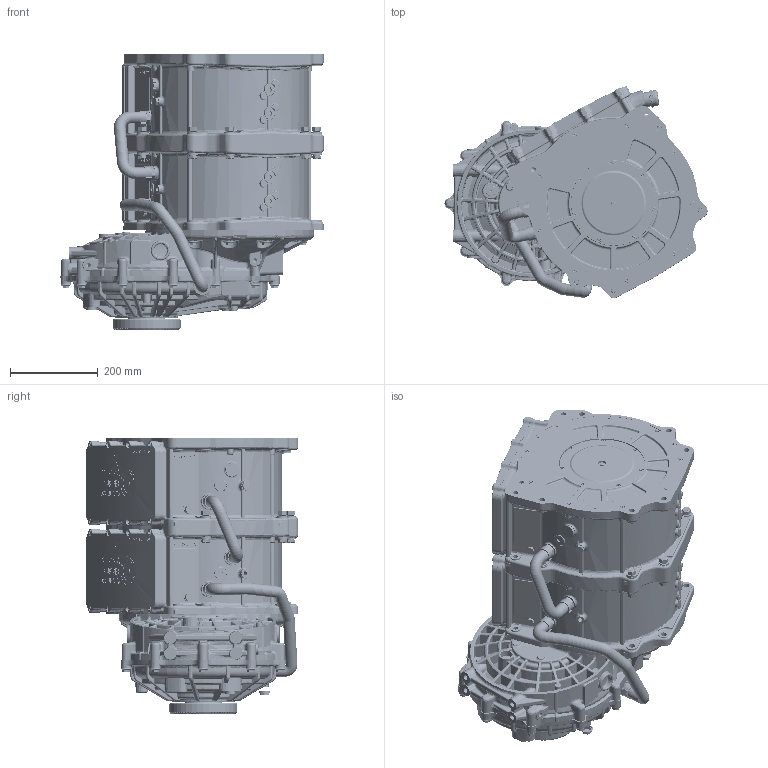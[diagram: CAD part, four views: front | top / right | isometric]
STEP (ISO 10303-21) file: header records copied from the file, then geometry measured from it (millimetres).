
FILE_DESCRIPTION(/* description */ ('AEM HDSRM300 Traction System MY22'),/* implementation_level */ '2;1');
FILE_NAME(/* name */ 'C:\Users\Jessica.Cookson\AppData\Local\Temp\SoveliaVault\ylobnwdr.knu\AEM-1703070041.stp',/* time_stamp */ '2022-07-29T11:59:59+01:00',/* author */ ('A-Jay Aykroyd'),/* organization */ (''),/* preprocessor_version */ 'ST-DEVELOPER v18',/* originating_system */ 'Autodesk Inventor 2020',/* authorisation */ '');
FILE_SCHEMA (('AUTOMOTIVE_DESIGN { 1 0 10303 214 3 1 1 }'));
Products named in the file (1): AEM-1703070041
Bounding box: 599.99 x 483.11 x 627.57 mm (x, y, z)
Volume: 69328810.5 mm3; surface area: 2310349.4 mm2
Topology: 5 solids, 5 shells, 15777 faces, 39310 edges, 23961 vertices
Faces by surface type: bspline 6376, plane 4165, cylinder 2702, torus 1139, cone 1015, sphere 380
Full cylindrical faces by diameter (mm): 2.74 x24, 3.36 x2, 4.917 x3, 5.5 x8, 6 x11, 7.8 x2, 8 x9, 8.25 x2, 8.5 x7, 9 x5, 9.8 x2, 10 x19, 10.106 x4, 10.4 x2, 11 x15, 11.825 x1, 12 x8, 13 x20, 13.5 x12, 14 x2, 14.25 x16, 14.6 x6, 16 x1, 16.63 x6, 16.64 x2, 17 x2, 17.2 x2, 18 x3, 19 x4, 19.05 x6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
Entity records: 656193 total; most frequent: CARTESIAN_POINT 303479, ORIENTED_EDGE 78338, DIRECTION 58164, EDGE_CURVE 39169, VERTEX_POINT 23965, AXIS2_PLACEMENT_3D 23639, EDGE_LOOP 16492, FACE_OUTER_BOUND 15777
